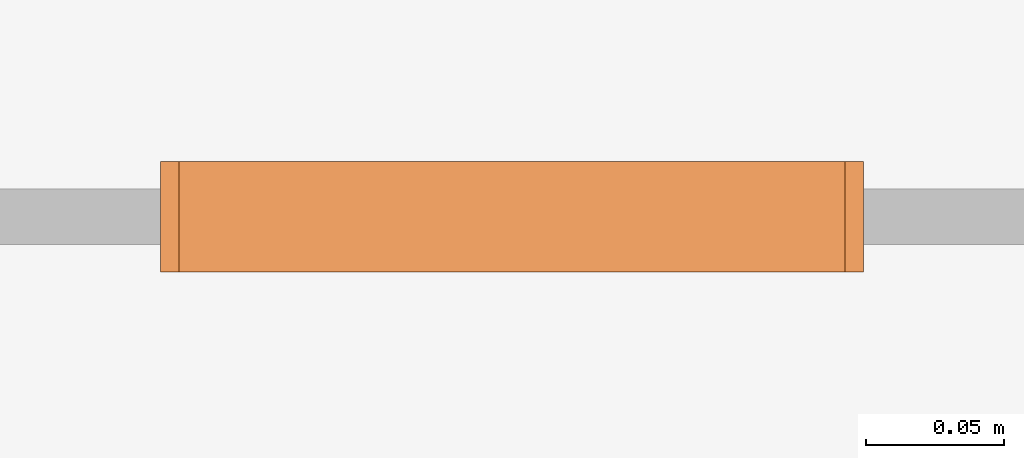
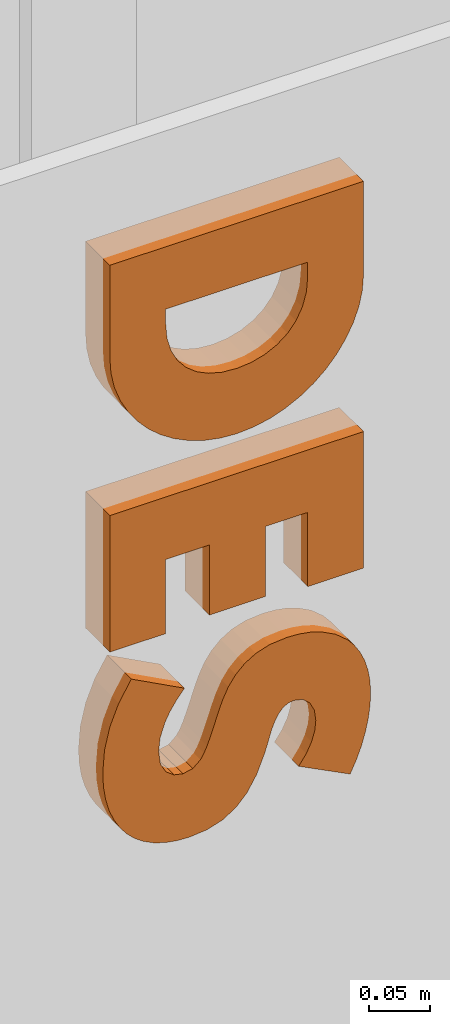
# One storey, part 64 of 64: 1 proxy.
"""IFC2X3 building model written with IfcOpenShell, lengths in metres."""

from ifc_helpers import new_model, entity, si_unit, converted_unit, derived_unit, direction, frame, origin, place, context, subcontext, project, spatial, faceted_brep, source, transform, mapped, material, type_object, type_shapes, element, save


model = new_model("IFC2X3")

# Units and contexts
model_context = context("Model", 3, precision=1e-05, world=origin(), true_north=direction((6.123031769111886e-17, 1.0)))
body_context = subcontext(model_context, "Body", "Model", "MODEL_VIEW")
ifc_project = project(units=[si_unit("LENGTHUNIT", "METRE"), si_unit("AREAUNIT", "SQUARE_METRE"), si_unit("VOLUMEUNIT", "CUBIC_METRE"), converted_unit("PLANEANGLEUNIT", "DEGREE", entity("IfcRatioMeasure", 0.017453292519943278), si_unit("PLANEANGLEUNIT", "RADIAN"), dimensions=[0, 0, 0, 0, 0, 0, 0]), si_unit("MASSUNIT", "GRAM", prefix="KILO"), derived_unit("MASSDENSITYUNIT", [(si_unit("MASSUNIT", "GRAM", prefix="KILO"), 1), (si_unit("LENGTHUNIT", "METRE"), -3)]), derived_unit("MOMENTOFINERTIAUNIT", [(si_unit("LENGTHUNIT", "METRE"), 4)]), si_unit("TIMEUNIT", "SECOND"), si_unit("FREQUENCYUNIT", "HERTZ"), si_unit("THERMODYNAMICTEMPERATUREUNIT", "DEGREE_CELSIUS"), derived_unit("THERMALTRANSMITTANCEUNIT", [(si_unit("MASSUNIT", "GRAM", prefix="KILO"), 1), (si_unit("THERMODYNAMICTEMPERATUREUNIT", "KELVIN"), -1), (si_unit("TIMEUNIT", "SECOND"), -3)]), derived_unit("THERMALCONDUCTANCEUNIT", [(si_unit("MASSUNIT", "GRAM", prefix="KILO"), 1), (si_unit("LENGTHUNIT", "METRE"), 1), (si_unit("THERMODYNAMICTEMPERATUREUNIT", "KELVIN"), -1), (si_unit("TIMEUNIT", "SECOND"), -3)]), derived_unit("VOLUMETRICFLOWRATEUNIT", [(si_unit("LENGTHUNIT", "METRE"), 3), (si_unit("TIMEUNIT", "SECOND"), -1)]), derived_unit("MASSFLOWRATEUNIT", [(si_unit("MASSUNIT", "GRAM", prefix="KILO"), 1), (si_unit("TIMEUNIT", "SECOND"), -1)]), derived_unit("ROTATIONALFREQUENCYUNIT", [(si_unit("TIMEUNIT", "SECOND"), -1)]), si_unit("ELECTRICCURRENTUNIT", "AMPERE"), si_unit("ELECTRICVOLTAGEUNIT", "VOLT"), si_unit("POWERUNIT", "WATT"), si_unit("FORCEUNIT", "NEWTON", prefix="KILO"), si_unit("ILLUMINANCEUNIT", "LUX"), si_unit("LUMINOUSFLUXUNIT", "LUMEN"), si_unit("LUMINOUSINTENSITYUNIT", "CANDELA"), derived_unit("USERDEFINED", [(si_unit("MASSUNIT", "GRAM", prefix="KILO"), -1), (si_unit("LENGTHUNIT", "METRE"), -2), (si_unit("TIMEUNIT", "SECOND"), 3), (si_unit("LUMINOUSFLUXUNIT", "LUMEN"), 1)]), derived_unit("USERDEFINED", [(si_unit("MASSUNIT", "GRAM", prefix="KILO"), 1), (si_unit("LENGTHUNIT", "METRE"), 3), (si_unit("TIMEUNIT", "SECOND"), -3), (si_unit("ELECTRICCURRENTUNIT", "AMPERE"), -2)]), derived_unit("USERDEFINED", [(si_unit("LENGTHUNIT", "METRE"), 2), (si_unit("TIMEUNIT", "SECOND"), -2)]), derived_unit("SOUNDPOWERUNIT", [(si_unit("MASSUNIT", "GRAM", prefix="KILO"), 1), (si_unit("LENGTHUNIT", "METRE"), 2), (si_unit("TIMEUNIT", "SECOND"), -3)]), derived_unit("SOUNDPRESSUREUNIT", [(si_unit("MASSUNIT", "GRAM", prefix="KILO"), 1), (si_unit("LENGTHUNIT", "METRE"), -1), (si_unit("TIMEUNIT", "SECOND"), -2)]), derived_unit("LINEARVELOCITYUNIT", [(si_unit("LENGTHUNIT", "METRE"), 1), (si_unit("TIMEUNIT", "SECOND"), -1)]), si_unit("PRESSUREUNIT", "PASCAL"), derived_unit("USERDEFINED", [(si_unit("LENGTHUNIT", "METRE"), -2), (si_unit("MASSUNIT", "GRAM", prefix="KILO"), 1), (si_unit("TIMEUNIT", "SECOND"), -2)]), derived_unit("LINEARFORCEUNIT", [(si_unit("MASSUNIT", "GRAM", prefix="KILO"), 1), (si_unit("LENGTHUNIT", "METRE"), 1), (si_unit("TIMEUNIT", "SECOND"), -2), (si_unit("LENGTHUNIT", "METRE"), -1)]), derived_unit("PLANARFORCEUNIT", [(si_unit("MASSUNIT", "GRAM", prefix="KILO"), 1), (si_unit("LENGTHUNIT", "METRE"), 1), (si_unit("TIMEUNIT", "SECOND"), -2), (si_unit("LENGTHUNIT", "METRE"), -2)]), derived_unit("SPECIFICHEATCAPACITYUNIT", [(si_unit("LENGTHUNIT", "METRE"), 2), (si_unit("TIMEUNIT", "SECOND"), -2), (si_unit("THERMODYNAMICTEMPERATUREUNIT", "KELVIN"), -1)]), derived_unit("VAPORPERMEABILITYUNIT", [(si_unit("TIMEUNIT", "SECOND"), 1), (si_unit("LENGTHUNIT", "METRE"), -1)]), derived_unit("DYNAMICVISCOSITYUNIT", [(si_unit("MASSUNIT", "GRAM", prefix="KILO"), 1), (si_unit("LENGTHUNIT", "METRE"), -1), (si_unit("TIMEUNIT", "SECOND"), -1)]), derived_unit("THERMALEXPANSIONCOEFFICIENTUNIT", [(si_unit("THERMODYNAMICTEMPERATUREUNIT", "KELVIN"), -1)])], contexts=[model_context])

# Site, building, storey
site_placement = place(None, origin())
site = spatial("IfcSite", under=ifc_project, at=site_placement, Name="Default", CompositionType="ELEMENT")
building_placement = place(site_placement, origin())
building = spatial("IfcBuilding", under=site, at=building_placement, CompositionType="ELEMENT")
storey_placement = place(building_placement, origin())
storey = spatial("IfcBuildingStorey", under=building, at=storey_placement, Name="REZ-DE-CHAUSSÉE", CompositionType="ELEMENT", Elevation=0.0)

# Proxy
ifc_material = material(Name="Air - Vide d'air")
building_element_proxy_type = type_object("IfcBuildingElementProxyType", Name="Symb-0004", PredefinedType="NOTDEFINED", material=ifc_material)
shared_shape = source(origin(), body_context, "Body", "Brep", [
    faceted_brep([(0.24800000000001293, 0.04000000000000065, 0.6012800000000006), (0.006720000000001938, 0.04000000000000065, 0.6012800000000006), (0.006720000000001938, 0.0, 0.6012800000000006), (0.24800000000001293, 0.0, 0.6012800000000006), (0.24800000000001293, 0.04000000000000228, 0.5084800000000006), (0.24689777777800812, 0.04000000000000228, 0.4923911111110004), (0.24359111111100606, 0.04000000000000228, 0.47697777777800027), (0.23808000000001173, 0.04000000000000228, 0.4622400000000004), (0.2307377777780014, 0.04000000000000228, 0.4484444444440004), (0.2219377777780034, 0.04000000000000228, 0.43585777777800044), (0.2116800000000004, 0.04000000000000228, 0.4244800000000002), (0.20008888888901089, 0.04000000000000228, 0.4144711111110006), (0.1872888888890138, 0.04000000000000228, 0.40599111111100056), (0.17328000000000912, 0.04000000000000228, 0.3990400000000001), (0.15843555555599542, 0.04000000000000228, 0.3938844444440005), (0.1431288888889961, 0.04000000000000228, 0.3907911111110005), (0.12735999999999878, 0.04000000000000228, 0.38976000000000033), (0.11176888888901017, 0.04000000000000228, 0.39077333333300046), (0.09656888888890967, 0.04000000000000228, 0.3938133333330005), (0.08176000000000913, 0.04000000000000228, 0.39888000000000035), (0.06773333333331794, 0.04000000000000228, 0.4057422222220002), (0.054880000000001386, 0.04000000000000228, 0.41416888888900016), (0.0432000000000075, 0.04000000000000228, 0.4241600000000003), (0.032853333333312, 0.04000000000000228, 0.435537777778), (0.02400000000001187, 0.04000000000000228, 0.4481244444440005), (0.01664000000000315, 0.04000000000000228, 0.4619200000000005), (0.01112888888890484, 0.04000000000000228, 0.4766933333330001), (0.007822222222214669, 0.04000000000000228, 0.4922133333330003), (0.006720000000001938, 0.04000000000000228, 0.5084800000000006), (0.059840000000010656, 0.04000000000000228, 0.53856), (0.059840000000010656, 0.04000000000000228, 0.5241600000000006), (0.0611200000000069, 0.04000000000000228, 0.50872), (0.06496000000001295, 0.04000000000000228, 0.49504000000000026), (0.07104000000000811, 0.04000000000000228, 0.4832400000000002), (0.07904000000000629, 0.04000000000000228, 0.4734400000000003), (0.08884000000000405, 0.04000000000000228, 0.4656800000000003), (0.10031999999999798, 0.04000000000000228, 0.4600000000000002), (0.11324000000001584, 0.04000000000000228, 0.45652000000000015), (0.12735999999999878, 0.04000000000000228, 0.45536000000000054), (0.14127999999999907, 0.04000000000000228, 0.4565600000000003), (0.1542400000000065, 0.04000000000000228, 0.46016000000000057), (0.16584000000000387, 0.04000000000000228, 0.4659600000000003), (0.17568000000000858, 0.04000000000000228, 0.4737600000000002), (0.18368000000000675, 0.04000000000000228, 0.48356000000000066), (0.18976000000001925, 0.04000000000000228, 0.49536000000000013), (0.19360000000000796, 0.04000000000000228, 0.5089600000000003), (0.19488000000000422, 0.04000000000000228, 0.5241600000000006), (0.19488000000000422, 0.04000000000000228, 0.53856), (0.006720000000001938, 0.0, 0.5084800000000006), (0.007822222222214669, 0.0, 0.4922133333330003), (0.01112888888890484, 0.0, 0.4766933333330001), (0.01664000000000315, 0.0, 0.4619200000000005), (0.02400000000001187, 0.0, 0.4481244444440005), (0.032853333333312, 0.0, 0.435537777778), (0.0432000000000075, 0.0, 0.4241600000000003), (0.054880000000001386, 0.0, 0.41416888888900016), (0.06773333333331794, 0.0, 0.4057422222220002), (0.08176000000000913, 0.0, 0.39888000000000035), (0.09656888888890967, 0.0, 0.3938133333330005), (0.11176888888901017, 0.0, 0.39077333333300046), (0.12735999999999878, 0.0, 0.38976000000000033), (0.1431288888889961, 0.0, 0.3907911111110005), (0.15843555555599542, 0.0, 0.3938844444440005), (0.17328000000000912, 0.0, 0.3990400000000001), (0.1872888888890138, 0.0, 0.40599111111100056), (0.20008888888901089, 0.0, 0.4144711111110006), (0.2116800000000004, 0.0, 0.4244800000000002), (0.2219377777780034, 0.0, 0.43585777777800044), (0.2307377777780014, 0.0, 0.4484444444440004), (0.23808000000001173, 0.0, 0.4622400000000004), (0.24359111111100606, 0.0, 0.47697777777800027), (0.24689777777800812, 0.0, 0.4923911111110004), (0.24800000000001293, 0.0, 0.5084800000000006), (0.059840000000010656, 0.0, 0.53856), (0.19488000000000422, 0.0, 0.53856), (0.19488000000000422, 0.0, 0.5241600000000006), (0.19360000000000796, 0.0, 0.5089600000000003), (0.18976000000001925, 0.0, 0.49536000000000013), (0.18368000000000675, 0.0, 0.48356000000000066), (0.17568000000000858, 0.0, 0.4737600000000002), (0.16584000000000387, 0.0, 0.4659600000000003), (0.1542400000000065, 0.0, 0.46016000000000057), (0.14127999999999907, 0.0, 0.4565600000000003), (0.12735999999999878, 0.0, 0.45536000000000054), (0.11324000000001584, 0.0, 0.45652000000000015), (0.10031999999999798, 0.0, 0.4600000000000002), (0.08884000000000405, 0.0, 0.4656800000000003), (0.07904000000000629, 0.0, 0.4734400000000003), (0.07104000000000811, 0.0, 0.4832400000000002), (0.06496000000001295, 0.0, 0.49504000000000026), (0.0611200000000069, 0.0, 0.50872), (0.059840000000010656, 0.0, 0.5241600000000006), (0.19488000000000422, 0.04000000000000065, 0.21248000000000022), (0.24800000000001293, 0.04000000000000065, 0.21248000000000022), (0.24800000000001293, 0.0, 0.21248000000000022), (0.19488000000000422, 0.0, 0.21248000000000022), (0.24800000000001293, 0.04000000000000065, 0.3497600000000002), (0.006720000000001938, 0.04000000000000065, 0.3497600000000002), (0.006720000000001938, 0.04000000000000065, 0.21248000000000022), (0.059840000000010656, 0.04000000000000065, 0.21248000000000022), (0.059840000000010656, 0.04000000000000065, 0.2870400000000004), (0.1014400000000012, 0.04000000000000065, 0.2870400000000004), (0.1014400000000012, 0.04000000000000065, 0.2166400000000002), (0.1545600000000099, 0.04000000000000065, 0.2166400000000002), (0.1545600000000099, 0.04000000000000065, 0.2870400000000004), (0.19488000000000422, 0.04000000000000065, 0.2870400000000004), (0.24800000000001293, 0.0, 0.3497600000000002), (0.006720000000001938, 0.0, 0.3497600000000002), (0.006720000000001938, 0.0, 0.21248000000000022), (0.059840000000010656, 0.0, 0.21248000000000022), (0.059840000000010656, 0.0, 0.2870400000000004), (0.1014400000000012, 0.0, 0.2870400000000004), (0.1014400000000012, 0.0, 0.2166400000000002), (0.1545600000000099, 0.0, 0.2166400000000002), (0.1545600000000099, 0.0, 0.2870400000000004), (0.19488000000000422, 0.0, 0.2870400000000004), (0.18623999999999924, 0.04000000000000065, 0.034880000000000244), (0.23520000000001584, 0.04000000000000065, 0.009920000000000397), (0.23520000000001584, 0.0, 0.009920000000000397), (0.18623999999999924, 0.0, 0.034880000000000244), (0.24108444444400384, 0.04000000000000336, 0.02204444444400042), (0.24593777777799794, 0.04000000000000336, 0.034524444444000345), (0.2497600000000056, 0.04000000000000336, 0.04736000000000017), (0.25251555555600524, 0.04000000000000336, 0.060195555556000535), (0.25416888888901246, 0.04000000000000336, 0.07267555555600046), (0.2547200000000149, 0.04000000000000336, 0.08480000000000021), (0.2540800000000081, 0.04000000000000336, 0.09719111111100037), (0.25216000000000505, 0.04000000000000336, 0.10876444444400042), (0.2489600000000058, 0.04000000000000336, 0.11952000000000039), (0.2446044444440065, 0.04000000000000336, 0.12933333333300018), (0.239217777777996, 0.04000000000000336, 0.13808000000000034), (0.23279999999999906, 0.04000000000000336, 0.14576000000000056), (0.22136000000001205, 0.04000000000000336, 0.15528000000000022), (0.20784000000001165, 0.04000000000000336, 0.16240000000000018), (0.19776000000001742, 0.04000000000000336, 0.1656888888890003), (0.18693333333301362, 0.04000000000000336, 0.16766222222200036), (0.17536000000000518, 0.04000000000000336, 0.16832000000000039), (0.15900000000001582, 0.04000000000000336, 0.16692000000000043), (0.1457599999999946, 0.04000000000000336, 0.1627200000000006), (0.13508000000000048, 0.04000000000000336, 0.15624000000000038), (0.12640000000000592, 0.04000000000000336, 0.14800000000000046), (0.11948000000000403, 0.04000000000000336, 0.13824000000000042), (0.11408000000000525, 0.04000000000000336, 0.12720000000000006), (0.10963999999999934, 0.04000000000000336, 0.11540000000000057), (0.10560000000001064, 0.04000000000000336, 0.10336000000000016), (0.10224000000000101, 0.04000000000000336, 0.09388000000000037), (0.09919999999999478, 0.04000000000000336, 0.08592000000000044), (0.09619999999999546, 0.04000000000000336, 0.07940000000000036), (0.09296000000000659, 0.04000000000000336, 0.07424000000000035), (0.08559999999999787, 0.04000000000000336, 0.06784000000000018), (0.07616000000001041, 0.04000000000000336, 0.06592000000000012), (0.06767999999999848, 0.04000000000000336, 0.06780000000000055), (0.06015999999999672, 0.04000000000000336, 0.07344000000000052), (0.054880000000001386, 0.04000000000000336, 0.08292000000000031), (0.053120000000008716, 0.04000000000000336, 0.09632000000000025), (0.05464000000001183, 0.04000000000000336, 0.10984000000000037), (0.05920000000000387, 0.04000000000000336, 0.1235200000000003), (0.0639644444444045, 0.04000000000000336, 0.13272888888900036), (0.07015111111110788, 0.04000000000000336, 0.1420088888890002), (0.07776000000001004, 0.04000000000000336, 0.15136000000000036), (0.027200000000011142, 0.04000000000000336, 0.1782400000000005), (0.015300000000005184, 0.04000000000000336, 0.15830000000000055), (0.006799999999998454, 0.04000000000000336, 0.1375200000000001), (0.0017000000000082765, 0.04000000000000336, 0.11590000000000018), (0.0, 0.04000000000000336, 0.09344000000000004), (0.0006577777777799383, 0.04000000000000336, 0.07923555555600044), (0.0026311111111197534, 0.04000000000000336, 0.06606222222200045), (0.00592000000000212, 0.04000000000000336, 0.05392000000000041), (0.010400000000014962, 0.04000000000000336, 0.042897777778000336), (0.015946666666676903, 0.04000000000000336, 0.03308444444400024), (0.022560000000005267, 0.04000000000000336, 0.024480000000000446), (0.030186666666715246, 0.04000000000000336, 0.017120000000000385), (0.0387733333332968, 0.04000000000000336, 0.01104000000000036), (0.048320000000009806, 0.04000000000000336, 0.0062400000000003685), (0.05873777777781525, 0.04000000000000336, 0.002773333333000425), (0.06993777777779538, 0.04000000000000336, 0.0006933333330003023), (0.08192000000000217, 0.04000000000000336, 0.0), (0.09911111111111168, 0.04000000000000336, 0.0015822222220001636), (0.1139911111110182, 0.04000000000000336, 0.006328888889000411), (0.12655999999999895, 0.04000000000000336, 0.014240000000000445), (0.1372088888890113, 0.04000000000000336, 0.02556444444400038), (0.14632888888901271, 0.04000000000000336, 0.040551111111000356), (0.15392000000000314, 0.04000000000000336, 0.05920000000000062), (0.15640000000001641, 0.04000000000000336, 0.06692000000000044), (0.15872000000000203, 0.04000000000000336, 0.07472000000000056), (0.1611600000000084, 0.04000000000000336, 0.08216000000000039), (0.1640000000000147, 0.04000000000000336, 0.08880000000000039), (0.1673200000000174, 0.04000000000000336, 0.09444000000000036), (0.17120000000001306, 0.04000000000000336, 0.09888000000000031), (0.17592000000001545, 0.04000000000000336, 0.10176000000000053), (0.18176000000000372, 0.04000000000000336, 0.10272000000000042), (0.19016000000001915, 0.04000000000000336, 0.10080000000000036), (0.19680000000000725, 0.04000000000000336, 0.09504000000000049), (0.20112000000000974, 0.04000000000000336, 0.08624000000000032), (0.20256000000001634, 0.04000000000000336, 0.0752000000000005), (0.20155999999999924, 0.04000000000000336, 0.06544000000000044), (0.1985599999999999, 0.04000000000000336, 0.05536000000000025), (0.19348000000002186, 0.04000000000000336, 0.04512000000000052), (0.24108444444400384, 0.0, 0.02204444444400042), (0.24593777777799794, 0.0, 0.034524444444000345), (0.2497600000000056, 0.0, 0.04736000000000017), (0.25251555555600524, 0.0, 0.060195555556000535), (0.25416888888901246, 0.0, 0.07267555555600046), (0.2547200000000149, 0.0, 0.08480000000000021), (0.2540800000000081, 0.0, 0.09719111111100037), (0.25216000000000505, 0.0, 0.10876444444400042), (0.2489600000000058, 0.0, 0.11952000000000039), (0.2446044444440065, 0.0, 0.12933333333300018), (0.239217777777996, 0.0, 0.13808000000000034), (0.23279999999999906, 0.0, 0.14576000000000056), (0.22136000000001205, 0.0, 0.15528000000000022), (0.20784000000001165, 0.0, 0.16240000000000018), (0.19776000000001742, 0.0, 0.1656888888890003), (0.18693333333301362, 0.0, 0.16766222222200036), (0.17536000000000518, 0.0, 0.16832000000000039), (0.15900000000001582, 0.0, 0.16692000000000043), (0.1457599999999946, 0.0, 0.1627200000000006), (0.13508000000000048, 0.0, 0.15624000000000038), (0.12640000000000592, 0.0, 0.14800000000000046), (0.11948000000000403, 0.0, 0.13824000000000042), (0.11408000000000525, 0.0, 0.12720000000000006), (0.10963999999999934, 0.0, 0.11540000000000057), (0.10560000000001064, 0.0, 0.10336000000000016), (0.10224000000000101, 0.0, 0.09388000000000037), (0.09919999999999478, 0.0, 0.08592000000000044), (0.09619999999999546, 0.0, 0.07940000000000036), (0.09296000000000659, 0.0, 0.07424000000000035), (0.08559999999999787, 0.0, 0.06784000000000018), (0.07616000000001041, 0.0, 0.06592000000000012), (0.06767999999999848, 0.0, 0.06780000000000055), (0.06015999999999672, 0.0, 0.07344000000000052), (0.054880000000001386, 0.0, 0.08292000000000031), (0.053120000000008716, 0.0, 0.09632000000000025), (0.05464000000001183, 0.0, 0.10984000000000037), (0.05920000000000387, 0.0, 0.1235200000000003), (0.0639644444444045, 0.0, 0.13272888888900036), (0.07015111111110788, 0.0, 0.1420088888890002), (0.07776000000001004, 0.0, 0.15136000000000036), (0.027200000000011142, 0.0, 0.1782400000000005), (0.015300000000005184, 0.0, 0.15830000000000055), (0.006799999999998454, 0.0, 0.1375200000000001), (0.0017000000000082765, 0.0, 0.11590000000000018), (0.0, 0.0, 0.09344000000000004), (0.0006577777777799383, 0.0, 0.07923555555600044), (0.0026311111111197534, 0.0, 0.06606222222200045), (0.00592000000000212, 0.0, 0.05392000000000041), (0.010400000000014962, 0.0, 0.042897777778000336), (0.015946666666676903, 0.0, 0.03308444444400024), (0.022560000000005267, 0.0, 0.024480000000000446), (0.030186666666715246, 0.0, 0.017120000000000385), (0.0387733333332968, 0.0, 0.01104000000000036), (0.048320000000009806, 0.0, 0.0062400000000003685), (0.05873777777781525, 0.0, 0.002773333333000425), (0.06993777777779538, 0.0, 0.0006933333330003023), (0.08192000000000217, 0.0, 0.0), (0.09911111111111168, 0.0, 0.0015822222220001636), (0.1139911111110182, 0.0, 0.006328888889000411), (0.12655999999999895, 0.0, 0.014240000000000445), (0.1372088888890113, 0.0, 0.02556444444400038), (0.14632888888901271, 0.0, 0.040551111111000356), (0.15392000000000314, 0.0, 0.05920000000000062), (0.15640000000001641, 0.0, 0.06692000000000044), (0.15872000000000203, 0.0, 0.07472000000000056), (0.1611600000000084, 0.0, 0.08216000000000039), (0.1640000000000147, 0.0, 0.08880000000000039), (0.1673200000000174, 0.0, 0.09444000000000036), (0.17120000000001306, 0.0, 0.09888000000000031), (0.17592000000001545, 0.0, 0.10176000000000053), (0.18176000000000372, 0.0, 0.10272000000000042), (0.19016000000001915, 0.0, 0.10080000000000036), (0.19680000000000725, 0.0, 0.09504000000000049), (0.20112000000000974, 0.0, 0.08624000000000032), (0.20256000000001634, 0.0, 0.0752000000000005), (0.20155999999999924, 0.0, 0.06544000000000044), (0.1985599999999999, 0.0, 0.05536000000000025), (0.19348000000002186, 0.0, 0.04512000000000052)], [[[0, 1, 2, 3]], [[0, 4, 5, 6, 7, 8, 9, 10, 11, 12, 13, 14, 15, 16, 17, 18, 19, 20, 21, 22, 23, 24, 25, 26, 27, 28, 1], [29, 30, 31, 32, 33, 34, 35, 36, 37, 38, 39, 40, 41, 42, 43, 44, 45, 46, 47]], [[1, 28, 48, 2]], [[3, 2, 48, 49, 50, 51, 52, 53, 54, 55, 56, 57, 58, 59, 60, 61, 62, 63, 64, 65, 66, 67, 68, 69, 70, 71, 72], [73, 74, 75, 76, 77, 78, 79, 80, 81, 82, 83, 84, 85, 86, 87, 88, 89, 90, 91]], [[4, 0, 3, 72]], [[5, 4, 72, 71]], [[6, 5, 71, 70]], [[7, 6, 70, 69]], [[8, 7, 69, 68]], [[9, 8, 68, 67]], [[10, 9, 67, 66]], [[11, 10, 66, 65]], [[12, 11, 65, 64]], [[13, 12, 64, 63]], [[14, 13, 63, 62]], [[15, 14, 62, 61]], [[16, 15, 61, 60]], [[17, 16, 60, 59]], [[18, 17, 59, 58]], [[19, 18, 58, 57]], [[20, 19, 57, 56]], [[21, 20, 56, 55]], [[22, 21, 55, 54]], [[23, 22, 54, 53]], [[24, 23, 53, 52]], [[25, 24, 52, 51]], [[26, 25, 51, 50]], [[27, 26, 50, 49]], [[28, 27, 49, 48]], [[30, 29, 73, 91]], [[31, 30, 91, 90]], [[32, 31, 90, 89]], [[33, 32, 89, 88]], [[34, 33, 88, 87]], [[35, 34, 87, 86]], [[36, 35, 86, 85]], [[37, 36, 85, 84]], [[38, 37, 84, 83]], [[39, 38, 83, 82]], [[40, 39, 82, 81]], [[41, 40, 81, 80]], [[42, 41, 80, 79]], [[43, 42, 79, 78]], [[44, 43, 78, 77]], [[45, 44, 77, 76]], [[46, 45, 76, 75]], [[47, 46, 75, 74]], [[29, 47, 74, 73]], [[92, 93, 94, 95]], [[92, 93, 96, 97, 98, 99, 100, 101, 102, 103, 104, 105]], [[93, 96, 106, 94]], [[95, 94, 106, 107, 108, 109, 110, 111, 112, 113, 114, 115]], [[105, 92, 95, 115]], [[104, 105, 115, 114]], [[103, 104, 114, 113]], [[102, 103, 113, 112]], [[101, 102, 112, 111]], [[100, 101, 111, 110]], [[99, 100, 110, 109]], [[98, 99, 109, 108]], [[97, 98, 108, 107]], [[96, 97, 107, 106]], [[116, 117, 118, 119]], [[116, 117, 120, 121, 122, 123, 124, 125, 126, 127, 128, 129, 130, 131, 132, 133, 134, 135, 136, 137, 138, 139, 140, 141, 142, 143, 144, 145, 146, 147, 148, 149, 150, 151, 152, 153, 154, 155, 156, 157, 158, 159, 160, 161, 162, 163, 164, 165, 166, 167, 168, 169, 170, 171, 172, 173, 174, 175, 176, 177, 178, 179, 180, 181, 182, 183, 184, 185, 186, 187, 188, 189, 190, 191, 192, 193, 194, 195, 196, 197]], [[117, 120, 198, 118]], [[119, 118, 198, 199, 200, 201, 202, 203, 204, 205, 206, 207, 208, 209, 210, 211, 212, 213, 214, 215, 216, 217, 218, 219, 220, 221, 222, 223, 224, 225, 226, 227, 228, 229, 230, 231, 232, 233, 234, 235, 236, 237, 238, 239, 240, 241, 242, 243, 244, 245, 246, 247, 248, 249, 250, 251, 252, 253, 254, 255, 256, 257, 258, 259, 260, 261, 262, 263, 264, 265, 266, 267, 268, 269, 270, 271, 272, 273, 274, 275]], [[197, 116, 119, 275]], [[196, 197, 275, 274]], [[195, 196, 274, 273]], [[194, 195, 273, 272]], [[193, 194, 272, 271]], [[192, 193, 271, 270]], [[191, 192, 270, 269]], [[190, 191, 269, 268]], [[189, 190, 268, 267]], [[188, 189, 267, 266]], [[187, 188, 266, 265]], [[186, 187, 265, 264]], [[185, 186, 264, 263]], [[184, 185, 263, 262]], [[183, 184, 262, 261]], [[182, 183, 261, 260]], [[181, 182, 260, 259]], [[180, 181, 259, 258]], [[179, 180, 258, 257]], [[178, 179, 257, 256]], [[177, 178, 256, 255]], [[176, 177, 255, 254]], [[175, 176, 254, 253]], [[174, 175, 253, 252]], [[173, 174, 252, 251]], [[172, 173, 251, 250]], [[171, 172, 250, 249]], [[170, 171, 249, 248]], [[169, 170, 248, 247]], [[168, 169, 247, 246]], [[167, 168, 246, 245]], [[166, 167, 245, 244]], [[165, 166, 244, 243]], [[164, 165, 243, 242]], [[163, 164, 242, 241]], [[162, 163, 241, 240]], [[161, 162, 240, 239]], [[160, 161, 239, 238]], [[159, 160, 238, 237]], [[158, 159, 237, 236]], [[157, 158, 236, 235]], [[156, 157, 235, 234]], [[155, 156, 234, 233]], [[154, 155, 233, 232]], [[153, 154, 232, 231]], [[152, 153, 231, 230]], [[151, 152, 230, 229]], [[150, 151, 229, 228]], [[149, 150, 228, 227]], [[148, 149, 227, 226]], [[147, 148, 226, 225]], [[146, 147, 225, 224]], [[145, 146, 224, 223]], [[144, 145, 223, 222]], [[143, 144, 222, 221]], [[142, 143, 221, 220]], [[141, 142, 220, 219]], [[140, 141, 219, 218]], [[139, 140, 218, 217]], [[138, 139, 217, 216]], [[137, 138, 216, 215]], [[136, 137, 215, 214]], [[135, 136, 214, 213]], [[134, 135, 213, 212]], [[133, 134, 212, 211]], [[132, 133, 211, 210]], [[131, 132, 210, 209]], [[130, 131, 209, 208]], [[129, 130, 208, 207]], [[128, 129, 207, 206]], [[127, 128, 206, 205]], [[126, 127, 205, 204]], [[125, 126, 204, 203]], [[124, 125, 203, 202]], [[123, 124, 202, 201]], [[122, 123, 201, 200]], [[121, 122, 200, 199]], [[120, 121, 199, 198]]]),
])
type_shapes(building_element_proxy_type, [shared_shape])
proxy_placement = place(storey_placement, frame((121.51402673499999, 4.427209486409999, 1.9403299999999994)))
element("IfcBuildingElementProxy", 1, at=proxy_placement, inside=storey, type_object=building_element_proxy_type, material=ifc_material, Name="Symb-0004 87821:Symb-0004 87821", ObjectType="Symb-0004 87821:Symb-0004 87821", context=body_context, shape_type="MappedRepresentation", body=[
    mapped(shared_shape, transform((0.0, 0.0, 0.0), scale=1.0)),
])

save(model, "model.ifc")
